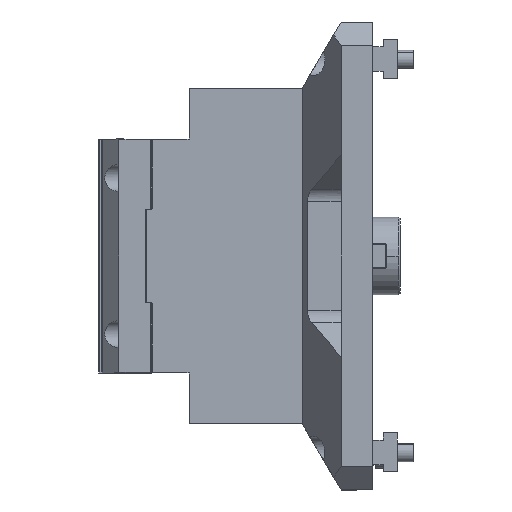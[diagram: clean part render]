
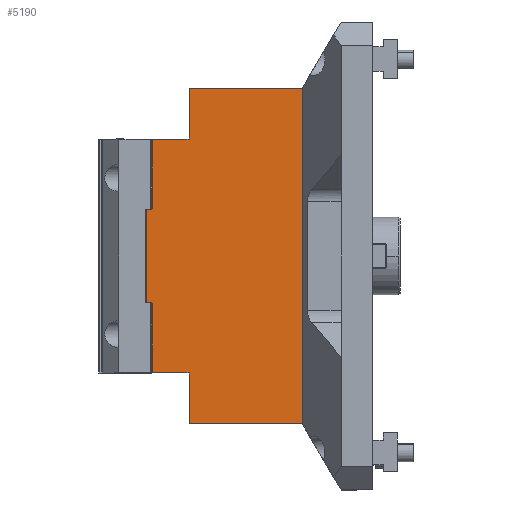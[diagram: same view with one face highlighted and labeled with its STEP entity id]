
A CAD part, left-side view. The second image highlights one B-rep face of the part: STEP entity #5190.
In plain terms, the highlighted planar face has unit normal (-1, 0, 0).
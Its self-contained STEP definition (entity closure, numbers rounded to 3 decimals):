
#178 = DIRECTION ( 'NONE',  ( 0., 0., 1. ) ) ;
#888 = DIRECTION ( 'NONE',  ( 0., 0., -1. ) ) ;
#2236 = VECTOR ( 'NONE', #18664, 1000. ) ;
#2641 = CARTESIAN_POINT ( 'NONE',  ( -125., 97.5, 75. ) ) ;
#3534 = ORIENTED_EDGE ( 'NONE', *, *, #12282, .F. ) ;
#3673 = LINE ( 'NONE', #28198, #9947 ) ;
#3717 = LINE ( 'NONE', #16316, #28572 ) ;
#3878 = LINE ( 'NONE', #13040, #5543 ) ;
#4066 = VERTEX_POINT ( 'NONE', #30945 ) ;
#4452 = DIRECTION ( 'NONE',  ( 0., 0., -1. ) ) ;
#4564 = EDGE_CURVE ( 'NONE', #26687, #15680, #29825, .T. ) ;
#4995 = VECTOR ( 'NONE', #18142, 1000. ) ;
#5190 = ADVANCED_FACE ( 'NONE', ( #16343 ), #28679, .F. ) ;
#5260 = EDGE_CURVE ( 'NONE', #8179, #26687, #16548, .T. ) ;
#5543 = VECTOR ( 'NONE', #34729, 1000. ) ;
#6280 = LINE ( 'NONE', #34505, #24532 ) ;
#6892 = VERTEX_POINT ( 'NONE', #20769 ) ;
#7806 = ORIENTED_EDGE ( 'NONE', *, *, #24367, .F. ) ;
#7924 = EDGE_CURVE ( 'NONE', #27728, #19811, #40093, .T. ) ;
#8179 = VERTEX_POINT ( 'NONE', #33484 ) ;
#8358 = VECTOR ( 'NONE', #19791, 1000. ) ;
#9556 = VERTEX_POINT ( 'NONE', #39297 ) ;
#9685 = CARTESIAN_POINT ( 'NONE',  ( -125., 97.5, -30. ) ) ;
#9947 = VECTOR ( 'NONE', #34934, 1000. ) ;
#9958 = EDGE_CURVE ( 'NONE', #19811, #4066, #39619, .T. ) ;
#10078 = DIRECTION ( 'NONE',  ( 1., 0., 0. ) ) ;
#10392 = CARTESIAN_POINT ( 'NONE',  ( -125., 97.5, -75. ) ) ;
#11055 = ORIENTED_EDGE ( 'NONE', *, *, #39649, .F. ) ;
#11253 = ORIENTED_EDGE ( 'NONE', *, *, #13351, .F. ) ;
#11808 = VECTOR ( 'NONE', #34817, 1000. ) ;
#12282 = EDGE_CURVE ( 'NONE', #6892, #8179, #18405, .T. ) ;
#12324 = DIRECTION ( 'NONE',  ( 0., 0., 1. ) ) ;
#12385 = CARTESIAN_POINT ( 'NONE',  ( -125., 97.5, 30. ) ) ;
#13040 = CARTESIAN_POINT ( 'NONE',  ( -125., 97.5, 75. ) ) ;
#13351 = EDGE_CURVE ( 'NONE', #16189, #22466, #6280, .T. ) ;
#15680 = VERTEX_POINT ( 'NONE', #29947 ) ;
#15856 = DIRECTION ( 'NONE',  ( 0., 0., 1. ) ) ;
#16189 = VERTEX_POINT ( 'NONE', #24884 ) ;
#16316 = CARTESIAN_POINT ( 'NONE',  ( -125., 72.5, -75. ) ) ;
#16343 = FACE_OUTER_BOUND ( 'NONE', #37419, .T. ) ;
#16548 = LINE ( 'NONE', #26192, #28751 ) ;
#17300 = CARTESIAN_POINT ( 'NONE',  ( -125., 0., 107.5 ) ) ;
#17962 = ORIENTED_EDGE ( 'NONE', *, *, #39784, .F. ) ;
#18008 = ORIENTED_EDGE ( 'NONE', *, *, #25483, .F. ) ;
#18142 = DIRECTION ( 'NONE',  ( 0., 0., 1. ) ) ;
#18326 = CARTESIAN_POINT ( 'NONE',  ( -125., 97.5, -75. ) ) ;
#18405 = LINE ( 'NONE', #37069, #36148 ) ;
#18664 = DIRECTION ( 'NONE',  ( 0., -1., 0. ) ) ;
#18840 = VERTEX_POINT ( 'NONE', #38649 ) ;
#19070 = EDGE_CURVE ( 'NONE', #9556, #36804, #22231, .T. ) ;
#19791 = DIRECTION ( 'NONE',  ( 0., 0., 1. ) ) ;
#19811 = VERTEX_POINT ( 'NONE', #9685 ) ;
#19916 = CARTESIAN_POINT ( 'NONE',  ( -125., 0., -107.5 ) ) ;
#20129 = VECTOR ( 'NONE', #15856, 1000. ) ;
#20769 = CARTESIAN_POINT ( 'NONE',  ( -125., 72.5, 75. ) ) ;
#22231 = LINE ( 'NONE', #33917, #20129 ) ;
#22466 = VERTEX_POINT ( 'NONE', #24520 ) ;
#22594 = LINE ( 'NONE', #12385, #2236 ) ;
#23156 = VECTOR ( 'NONE', #4452, 1000. ) ;
#24020 = CARTESIAN_POINT ( 'NONE',  ( -125., 100., -30. ) ) ;
#24094 = ORIENTED_EDGE ( 'NONE', *, *, #4564, .F. ) ;
#24367 = EDGE_CURVE ( 'NONE', #36804, #6892, #3878, .T. ) ;
#24520 = CARTESIAN_POINT ( 'NONE',  ( -125., 72.5, -75. ) ) ;
#24532 = VECTOR ( 'NONE', #178, 1000. ) ;
#24884 = CARTESIAN_POINT ( 'NONE',  ( -125., 72.5, -107.5 ) ) ;
#24967 = ORIENTED_EDGE ( 'NONE', *, *, #19070, .F. ) ;
#25483 = EDGE_CURVE ( 'NONE', #18840, #9556, #22594, .T. ) ;
#25703 = ORIENTED_EDGE ( 'NONE', *, *, #34134, .F. ) ;
#25992 = DIRECTION ( 'NONE',  ( 0., -1., 0. ) ) ;
#26159 = LINE ( 'NONE', #35389, #8358 ) ;
#26192 = CARTESIAN_POINT ( 'NONE',  ( -125., 72.5, 107.5 ) ) ;
#26687 = VERTEX_POINT ( 'NONE', #17300 ) ;
#27728 = VERTEX_POINT ( 'NONE', #10392 ) ;
#28198 = CARTESIAN_POINT ( 'NONE',  ( -125., 72.5, -107.5 ) ) ;
#28572 = VECTOR ( 'NONE', #38260, 1000. ) ;
#28667 = ORIENTED_EDGE ( 'NONE', *, *, #5260, .F. ) ;
#28679 = PLANE ( 'NONE',  #39232 ) ;
#28751 = VECTOR ( 'NONE', #25992, 1000. ) ;
#28875 = ORIENTED_EDGE ( 'NONE', *, *, #9958, .F. ) ;
#29825 = LINE ( 'NONE', #19916, #23156 ) ;
#29947 = CARTESIAN_POINT ( 'NONE',  ( -125., 0., -107.5 ) ) ;
#30945 = CARTESIAN_POINT ( 'NONE',  ( -125., 100., -30. ) ) ;
#33484 = CARTESIAN_POINT ( 'NONE',  ( -125., 72.5, 107.5 ) ) ;
#33917 = CARTESIAN_POINT ( 'NONE',  ( -125., 97.5, 30. ) ) ;
#34134 = EDGE_CURVE ( 'NONE', #15680, #16189, #3673, .T. ) ;
#34505 = CARTESIAN_POINT ( 'NONE',  ( -125., 72.5, -107.5 ) ) ;
#34729 = DIRECTION ( 'NONE',  ( 0., -1., 0. ) ) ;
#34817 = DIRECTION ( 'NONE',  ( 0., 1., 0. ) ) ;
#34934 = DIRECTION ( 'NONE',  ( 0., 1., 0. ) ) ;
#35389 = CARTESIAN_POINT ( 'NONE',  ( -125., 100., 30. ) ) ;
#35631 = CARTESIAN_POINT ( 'NONE',  ( -125., 0., 0. ) ) ;
#36148 = VECTOR ( 'NONE', #12324, 1000. ) ;
#36804 = VERTEX_POINT ( 'NONE', #2641 ) ;
#37069 = CARTESIAN_POINT ( 'NONE',  ( -125., 72.5, 75. ) ) ;
#37419 = EDGE_LOOP ( 'NONE', ( #24967, #18008, #17962, #28875, #39701, #11055, #11253, #25703, #24094, #28667, #3534, #7806 ) ) ;
#38260 = DIRECTION ( 'NONE',  ( 0., 1., 0. ) ) ;
#38649 = CARTESIAN_POINT ( 'NONE',  ( -125., 100., 30. ) ) ;
#39232 = AXIS2_PLACEMENT_3D ( 'NONE', #35631, #10078, #888 ) ;
#39297 = CARTESIAN_POINT ( 'NONE',  ( -125., 97.5, 30. ) ) ;
#39619 = LINE ( 'NONE', #24020, #11808 ) ;
#39649 = EDGE_CURVE ( 'NONE', #22466, #27728, #3717, .T. ) ;
#39701 = ORIENTED_EDGE ( 'NONE', *, *, #7924, .F. ) ;
#39784 = EDGE_CURVE ( 'NONE', #4066, #18840, #26159, .T. ) ;
#40093 = LINE ( 'NONE', #18326, #4995 ) ;
